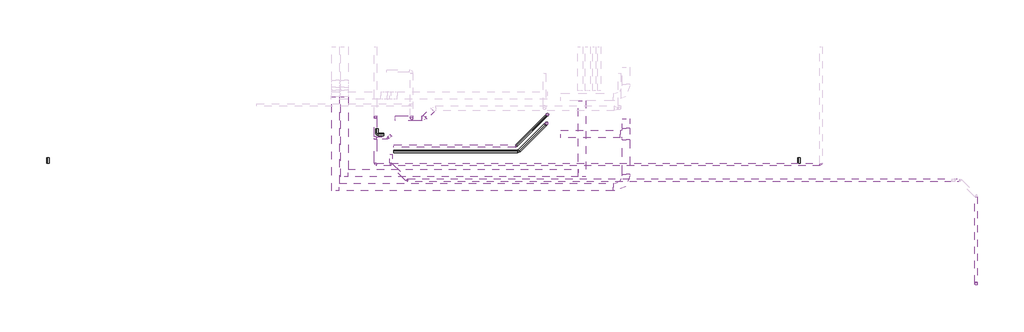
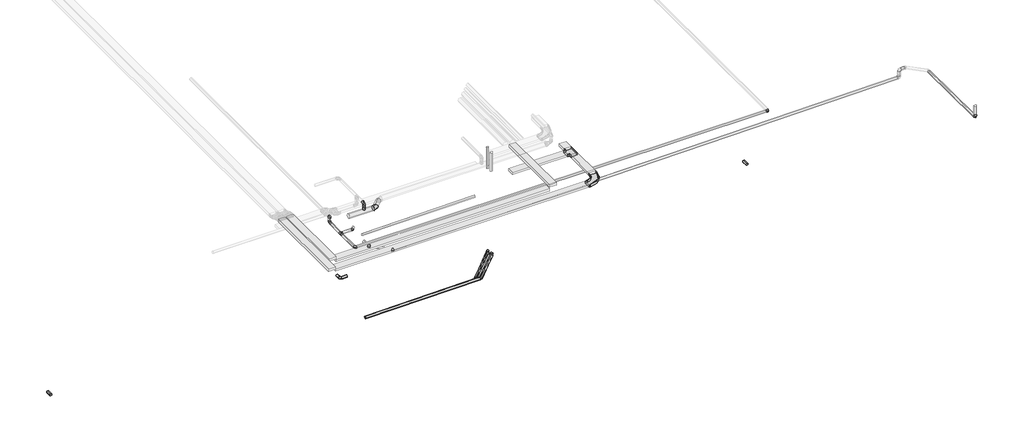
# One storey, part 1 of 5: 23 pipe segments, 14 pipe fittings, 8 cable carrier segments, 3 duct fittings, 3 duct segments, 2 cable carrier fittings.
"""IFC4 building model written with IfcOpenShell, lengths in millimetres."""

from ifc_helpers import new_model, si_unit, point, frame, frame_2d, origin, place, context, project, spatial, polyline, circle_curve, trimmed, segment, composite_curve, outline, extrude, transform, mapped, element, save
from components import el_radio_300_mm_312ed4b1, m_codo_horizontal_de_canal_el_5b0e7b07, ext_562ff85e, m_codo_redondo_ext_1_d_96ea52f9, m_codo_redondo_ext_1_d_19f6bd6d, pipe_fitting_0b7fd5a4, pipe_fitting_aab77541, pipe_fitting_688cd524, pipe_fitting_d4e63a53, pipe_fitting_87aeffad, pipe_fitting_4a6b8cfe, pipe_fitting_2d09eb79

model = new_model("IFC4")

# Units and contexts
model_context = context("Model", 3, world=origin())
ifc_project = project(units=[si_unit("LENGTHUNIT", "METRE", prefix="MILLI")], contexts=[model_context])

# Site, building, storey
site = spatial("IfcSite", under=ifc_project)
building = spatial("IfcBuilding", under=site)
storey = spatial("IfcBuildingStorey", under=building, Name="Nivell 02 P02_PP", Elevation=14910.0)

# Cable carrier fittings
placement = place(None, origin())
el_radio_300_mm_shape = el_radio_300_mm_312ed4b1(model_context)
element("IfcCableCarrierFitting", 1, ObjectType="M_Te horizontal de canal : EL_Radio 300 mm", at=placement, inside=storey, context=model_context, shape_type="MappedRepresentation", body=[
    mapped(el_radio_300_mm_shape, transform((16614.6624278, -16993.7433657, 18074.0212739), x_axis=(0.0, -1.0, 0.0), y_axis=(1.0, 0.0, 0.0), z_axis=(0.0, 0.0, 1.0))),
])
m_codo_horizontal_de_canal_el_shape = m_codo_horizontal_de_canal_el_5b0e7b07(model_context)
element("IfcCableCarrierFitting", 2, ObjectType="M_Codo horizontal de canal : EL", at=placement, inside=storey, context=model_context, shape_type="MappedRepresentation", body=[
    mapped(m_codo_horizontal_de_canal_el_shape, transform((16614.6624278, -19116.2171768, 18074.0212739), x_axis=(1.0, 0.0, 0.0), y_axis=(0.0, 1.0, 0.0), z_axis=(0.0, 0.0, 1.0))),
])

# Cable carrier segments
element("IfcCableCarrierSegment", 3, ObjectType="EL", at=placement, inside=storey, context=model_context, shape_type="SweptSolid", body=[
    extrude(outline(polyline([(16464.6624278, -17219.7433657), (16764.6624278, -17219.7433657), (16764.6624278, -18591.2171768), (16464.6624278, -18591.2171768), (16464.6624278, -17219.7433657)])), frame((0.0, 0.0, 18024.0212739), z_axis=(0.0, 0.0, 1.0), x_axis=(1.0, 0.0, 0.0)), (0.0, 0.0, 1.0), 100.0),
])
element("IfcCableCarrierSegment", 4, ObjectType="EL", at=placement, inside=storey, context=model_context, shape_type="SweptSolid", body=[
    extrude(outline(polyline([(16089.6624278, -18966.2171768), (16089.6624278, -19266.2171768), (5158.2381883, -19266.2171768), (5158.2381883, -18966.2171768), (16089.6624278, -18966.2171768)])), frame((0.0, 0.0, 18024.0212739), z_axis=(0.0, 0.0, 1.0), x_axis=(1.0, 0.0, 0.0)), (0.0, 0.0, 1.0), 100.0),
])
element("IfcCableCarrierSegment", 5, ObjectType="EL", at=placement, inside=storey, context=model_context, shape_type="SweptSolid", body=[
    extrude(outline(polyline([(16464.6624278, -16393.7433657), (16764.6624278, -16393.7433657), (16764.6624278, -16767.7433657), (16464.6624278, -16767.7433657), (16464.6624278, -16393.7433657)])), frame((0.0, 0.0, 18024.0212739), z_axis=(0.0, 0.0, 1.0), x_axis=(1.0, 0.0, 0.0)), (0.0, 0.0, 1.0), 100.0),
])
element("IfcCableCarrierSegment", 6, ObjectType="EL", at=placement, inside=storey, context=model_context, shape_type="SweptSolid", body=[
    extrude(outline(polyline([(16388.6624278, -16843.7433657), (16388.6624278, -17143.7433657), (14011.0671065, -17143.7433657), (14011.0671065, -16843.7433657), (16388.6624278, -16843.7433657)])), frame((0.0, 0.0, 18024.0212739), z_axis=(0.0, 0.0, 1.0), x_axis=(1.0, 0.0, 0.0)), (0.0, 0.0, 1.0), 100.0),
])
element("IfcCableCarrierSegment", 7, ObjectType="EL", at=placement, inside=storey, context=model_context, shape_type="SweptSolid", body=[
    extrude(outline(polyline([(14707.0671065, -15671.1304394), (15007.0671065, -15671.1304394), (15007.0671065, -18700.3999814), (14707.0671065, -18700.3999814), (14707.0671065, -15671.1304394)])), frame((0.0, 0.0, 18160.0), z_axis=(0.0, 0.0, 1.0), x_axis=(1.0, 0.0, 0.0)), (0.0, 0.0, 1.0), 100.0),
])
element("IfcCableCarrierSegment", 8, ObjectType="EL", at=placement, inside=storey, context=model_context, shape_type="SweptSolid", body=[
    extrude(outline(polyline([(14707.0671065, -18400.3999814), (14707.0671065, -18700.3999814), (5507.0671065, -18700.3999814), (5507.0671065, -18400.3999814), (14707.0671065, -18400.3999814)])), frame((0.0, 0.0, 17991.5185208), z_axis=(0.0, 0.0, 1.0), x_axis=(1.0, 0.0, 0.0)), (0.0, 0.0, 1.0), 100.0),
])
element("IfcCableCarrierSegment", 9, ObjectType="EL", at=placement, inside=storey, context=model_context, shape_type="SweptSolid", body=[
    extrude(outline(polyline([(4858.2381883, -15500.01931), (5158.2381883, -15500.01931), (5158.2381883, -19266.2171768), (4858.2381883, -19266.2171768), (4858.2381883, -15500.01931)])), frame((0.0, 0.0, 18110.0), z_axis=(0.0, 0.0, 1.0), x_axis=(1.0, 0.0, 0.0)), (0.0, 0.0, 1.0), 100.0),
])
element("IfcCableCarrierSegment", 10, ObjectType="EL", at=placement, inside=storey, context=model_context, shape_type="SweptSolid", body=[
    extrude(outline(polyline([(5207.0671065, -15500.01931), (5507.0671065, -15500.01931), (5507.0671065, -18700.3999814), (5207.0671065, -18700.3999814), (5207.0671065, -15500.01931)])), frame((0.0, 0.0, 18110.0), z_axis=(0.0, 0.0, 1.0), x_axis=(1.0, 0.0, 0.0)), (0.0, 0.0, 1.0), 100.0),
])

# Duct fittings
ext_shape = ext_562ff85e(model_context)
element("IfcDuctFitting", 11, ObjectType="M_Toma de derivación redonda : EXT", at=placement, inside=storey, context=model_context, shape_type="MappedRepresentation", body=[
    mapped(ext_shape, transform((8050.5896993, -16372.9719502, 18090.0), x_axis=(0.0, 0.0, 1.0), y_axis=(-1.0, 0.0, 0.0), z_axis=(0.0, -1.0, 0.0))),
])
m_codo_redondo_ext_1_d_shape = m_codo_redondo_ext_1_d_96ea52f9(model_context)
element("IfcDuctFitting", 12, ObjectType="M_Codo redondo : EXT_1 D", at=placement, inside=storey, context=model_context, shape_type="MappedRepresentation", body=[
    mapped(m_codo_redondo_ext_1_d_shape, transform((8050.5896993, -16372.9719502, 18360.0), x_axis=(0.0, -1.0, 0.0), y_axis=(0.0, 0.0, 1.0), z_axis=(-1.0, 0.0, 0.0))),
])
m_codo_redondo_ext_1_d_2_shape = m_codo_redondo_ext_1_d_19f6bd6d(model_context)
element("IfcDuctFitting", 13, ObjectType="M_Codo redondo : EXT_1 D", at=placement, inside=storey, context=model_context, shape_type="MappedRepresentation", body=[
    mapped(m_codo_redondo_ext_1_d_2_shape, transform((8530.5878282, -16372.9738213, 17990.0), x_axis=(-0.7071067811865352, -0.7071067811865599, 0.0), y_axis=(0.7071067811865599, -0.7071067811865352, 0.0), z_axis=(0.0, 0.0, 1.0))),
])

# Duct segments
element("IfcDuctSegment", 14, ObjectType="EXT_Acer Galvanitzat - Rígid", at=placement, inside=storey, context=model_context, shape_type="SweptSolid", body=[
    extrude(outline(composite_curve([segment(trimmed(circle_curve(frame_2d((8050.5896993, -16372.9719502)), 50.0), [point((8000.5896993, -16372.9719502))], [point((8050.5896993, -16322.9719502))], False, "CARTESIAN"), True, "CONTINUOUS"), segment(trimmed(circle_curve(frame_2d((8050.5896993, -16372.9719502)), 50.0), [point((8050.5896993, -16322.9719502))], [point((8100.5896993, -16372.9719502))], False, "CARTESIAN"), True, "CONTINUOUS"), segment(trimmed(circle_curve(frame_2d((8050.5896993, -16372.9719502)), 50.0), [point((8100.5896993, -16372.9719502))], [point((8050.5896993, -16422.9719502))], False, "CARTESIAN"), True, "CONTINUOUS"), segment(trimmed(circle_curve(frame_2d((8050.5896993, -16372.9719502)), 50.0), [point((8050.5896993, -16422.9719502))], [point((8000.5896993, -16372.9719502))], False, "CARTESIAN"), True, "CONTINUOUS")], self_intersect=False)), frame((0.0, 0.0, 18191.6), z_axis=(0.0, 0.0, 1.0), x_axis=(1.0, 0.0, 0.0)), (0.0, 0.0, 1.0), 68.4),
])
element("IfcDuctSegment", 15, ObjectType="EXT_Acer Galvanitzat - Rígid", at=placement, inside=storey, context=model_context, shape_type="SweptSolid", body=[
    extrude(outline(composite_curve([segment(trimmed(circle_curve(frame_2d((0.0, -100.0)), 100.0), [point((-100.0, -100.0))], [point((0.0, 0.0))], False, "CARTESIAN"), True, "CONTINUOUS"), segment(trimmed(circle_curve(frame_2d((0.0, -100.0)), 100.0), [point((0.0, 0.0))], [point((100.0, -100.0))], False, "CARTESIAN"), True, "CONTINUOUS"), segment(trimmed(circle_curve(frame_2d((0.0, -100.0)), 100.0), [point((100.0, -100.0))], [point((0.0, -200.0))], False, "CARTESIAN"), True, "CONTINUOUS"), segment(trimmed(circle_curve(frame_2d((0.0, -100.0)), 100.0), [point((0.0, -200.0))], [point((-100.0, -100.0))], False, "CARTESIAN"), True, "CONTINUOUS")], self_intersect=False)), frame((8589.166472, -16314.3951775, 17890.0), z_axis=(0.7071067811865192, 0.707106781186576, 0.0), x_axis=(0.707106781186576, -0.7071067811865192, 0.0)), (0.0, 0.0, 1.0), 400.0026461),
])
element("IfcDuctSegment", 16, ObjectType="EXT_Acer Galvanitzat - Rígid", at=placement, inside=storey, context=model_context, shape_type="SweptSolid", body=[
    extrude(outline(composite_curve([segment(trimmed(circle_curve(frame_2d((-16372.9738213, 17990.0)), 100.0), [point((-16272.9738213, 17990.0))], [point((-16372.9738213, 17890.0))], False, "CARTESIAN"), True, "CONTINUOUS"), segment(trimmed(circle_curve(frame_2d((-16372.9738213, 17990.0)), 100.0), [point((-16372.9738213, 17890.0))], [point((-16472.9738213, 17990.0))], False, "CARTESIAN"), True, "CONTINUOUS"), segment(trimmed(circle_curve(frame_2d((-16372.9738213, 17990.0)), 100.0), [point((-16472.9738213, 17990.0))], [point((-16372.9738213, 18090.0))], False, "CARTESIAN"), True, "CONTINUOUS"), segment(trimmed(circle_curve(frame_2d((-16372.9738213, 17990.0)), 100.0), [point((-16372.9738213, 18090.0))], [point((-16272.9738213, 17990.0))], False, "CARTESIAN"), True, "CONTINUOUS")], self_intersect=False)), frame((7390.5878282, 0.0, 0.0), z_axis=(1.0, 0.0, 0.0), x_axis=(0.0, 1.0, 0.0)), (0.0, 0.0, 1.0), 1057.1572875),
])

# Pipe fittings
pipe_fitting_shape = pipe_fitting_0b7fd5a4(model_context)
element("IfcPipeFitting", 17, ObjectType="M_Codo - Genérico : Estándar", at=placement, inside=storey, context=model_context, shape_type="MappedRepresentation", body=[
    mapped(pipe_fitting_shape, transform((12318.5757792, -17686.9795368, 14244.2175715), x_axis=(0.9999500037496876, 0.0, 0.009999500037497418), y_axis=(-4.141685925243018e-05, 0.9999914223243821, 0.004141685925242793), z_axis=(-0.009999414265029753, -0.004141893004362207, 0.9999414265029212))),
])
element("IfcPipeFitting", 18, ObjectType="M_Codo - Genérico : Estándar", at=placement, inside=storey, context=model_context, shape_type="MappedRepresentation", body=[
    mapped(pipe_fitting_shape, transform((7870.1942893, -18840.3956727, 17794.0689991), x_axis=(0.7070714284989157, -0.7070714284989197, 0.009999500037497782), y_axis=(0.7070714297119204, 0.7071300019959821, 0.004141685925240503), z_axis=(-0.009999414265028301, 0.004141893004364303, 0.9999414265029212))),
])
element("IfcPipeFitting", 19, ObjectType="M_Codo - Genérico : Estándar", at=placement, inside=storey, context=model_context, shape_type="MappedRepresentation", body=[
    mapped(pipe_fitting_shape, transform((7222.9422017, -18193.1435851, 17784.9154723), x_axis=(0.0, -0.9999500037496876, 0.009999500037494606), y_axis=(0.9999914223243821, 4.141685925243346e-05, 0.004141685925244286), z_axis=(-0.004141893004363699, 0.009999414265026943, 0.9999414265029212))),
])
pipe_fitting_2_shape = pipe_fitting_aab77541(model_context)
element("IfcPipeFitting", 20, ObjectType="M_Codo - Genérico : Estándar", at=placement, inside=storey, context=model_context, shape_type="MappedRepresentation", body=[
    mapped(pipe_fitting_2_shape, transform((13434.5619983, -16570.9933177, 14260.0), x_axis=(0.7070714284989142, 0.7070714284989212, 0.00999950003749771), y_axis=(-0.007070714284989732, -0.007070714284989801, 0.9999500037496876), z_axis=(0.707106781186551, -0.707106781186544, 0.0))),
])
element("IfcPipeFitting", 21, ObjectType="M_Codo - Genérico : Estándar", at=placement, inside=storey, context=model_context, shape_type="MappedRepresentation", body=[
    mapped(pipe_fitting_2_shape, transform((30589.4059114, -22976.7660651, 18410.0), x_axis=(0.0, 0.0, -1.0), y_axis=(0.0, 1.0, 0.0), z_axis=(1.0, 0.0, 0.0))),
])
pipe_fitting_3_shape = pipe_fitting_688cd524(model_context)
element("IfcPipeFitting", 22, ObjectType="M_Codo - Genérico : Estándar", at=placement, inside=storey, context=model_context, shape_type="MappedRepresentation", body=[
    mapped(pipe_fitting_3_shape, transform((13475.0176167, -16214.1987939, 14151.1228556), x_axis=(0.7070714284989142, 0.7070714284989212, 0.00999950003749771), y_axis=(-0.007070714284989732, -0.007070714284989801, 0.9999500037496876), z_axis=(0.707106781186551, -0.707106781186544, 0.0))),
])
pipe_fitting_4_shape = pipe_fitting_d4e63a53(model_context)
element("IfcPipeFitting", 23, ObjectType="M_Codo - Genérico : Estándar", at=placement, inside=storey, context=model_context, shape_type="MappedRepresentation", body=[
    mapped(pipe_fitting_4_shape, transform((12218.1428427, -17471.0727446, 14133.3479679), x_axis=(0.9999500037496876, 0.0, 0.009999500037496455), y_axis=(-4.141528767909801e-05, 0.9999914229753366, 0.0041415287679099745), z_axis=(-0.00999941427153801, -0.004141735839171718, 0.9999414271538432))),
])
pipe_fitting_5_shape = pipe_fitting_87aeffad(model_context)
element("IfcPipeFitting", 24, ObjectType="M_Codo - Genérico : Estándar", at=placement, inside=storey, context=model_context, shape_type="MappedRepresentation", body=[
    mapped(pipe_fitting_5_shape, transform((6656.4795907, -17006.4845942, 15810.0), x_axis=(0.0, -1.0, 0.0), y_axis=(1.0, 0.0, 0.0), z_axis=(0.0, 0.0, 1.0))),
])
element("IfcPipeFitting", 25, ObjectType="M_Codo - Genérico : Estándar", at=placement, inside=storey, context=model_context, shape_type="MappedRepresentation", body=[
    mapped(pipe_fitting_5_shape, transform((6603.8941113, -18211.6106458, 17959.2), x_axis=(0.0, -1.0, 0.0), y_axis=(1.0, 0.0, 0.0), z_axis=(0.0, 0.0, 1.0))),
])
element("IfcPipeFitting", 26, ObjectType="M_Codo - Genérico : Estándar", at=placement, inside=storey, context=model_context, shape_type="MappedRepresentation", body=[
    mapped(pipe_fitting_5_shape, transform((24403.8941113, -18211.6106458, 17959.2), x_axis=(1.0, 0.0, 0.0), y_axis=(0.0, 1.0, 0.0), z_axis=(0.0, 0.0, 1.0))),
])
element("IfcPipeFitting", 27, ObjectType="M_Codo - Genérico : Estándar", at=placement, inside=storey, context=model_context, shape_type="MappedRepresentation", body=[
    mapped(pipe_fitting_5_shape, transform((6603.8941113, -16317.1543958, 17959.2), x_axis=(0.0, 1.0, 0.0), y_axis=(0.0, 0.0, 1.0), z_axis=(1.0, 0.0, 0.0))),
])
element("IfcPipeFitting", 28, ObjectType="M_Codo - Genérico : Estándar", at=placement, inside=storey, context=model_context, shape_type="MappedRepresentation", body=[
    mapped(pipe_fitting_5_shape, transform((6603.8941113, -16317.1543958, 18210.8), x_axis=(0.0, -1.0, 0.0), y_axis=(0.0, 0.0, -1.0), z_axis=(1.0, 0.0, 0.0))),
])
pipe_fitting_6_shape = pipe_fitting_4a6b8cfe(model_context)
element("IfcPipeFitting", 29, ObjectType="M_Codo - Genérico : Estándar", at=placement, inside=storey, context=model_context, shape_type="MappedRepresentation", body=[
    mapped(pipe_fitting_6_shape, transform((7103.8941113, -17152.8731458, 17959.2), x_axis=(1.0, 0.0, 0.0), y_axis=(0.0, 1.0, 0.0), z_axis=(0.0, 0.0, 1.0))),
])
pipe_fitting_7_shape = pipe_fitting_2d09eb79(model_context)
element("IfcPipeFitting", 30, ObjectType="M_Te - Genérica : Estándar", at=placement, inside=storey, context=model_context, shape_type="MappedRepresentation", body=[
    mapped(pipe_fitting_7_shape, transform((6603.8941113, -17152.8731458, 17959.2), x_axis=(0.0, -1.0, 0.0), y_axis=(-1.0, 0.0, 0.0), z_axis=(0.0, 0.0, -1.0))),
])

# Pipe segments
element("IfcPipeSegment", 31, ObjectType="PVC_Baixant", at=placement, inside=storey, context=model_context, shape_type="SweptSolid", body=[
    extrude(outline(composite_curve([segment(trimmed(circle_curve(frame_2d((0.0, -55.0)), 55.0), [point((-54.9972505, -54.450055))], [point((0.549945, -0.0027495))], False, "CARTESIAN"), True, "CONTINUOUS"), segment(trimmed(circle_curve(frame_2d((0.0, -55.0)), 55.0), [point((0.549945, -0.0027495))], [point((54.9972505, -55.549945))], False, "CARTESIAN"), True, "CONTINUOUS"), segment(trimmed(circle_curve(frame_2d((0.0, -55.0)), 55.0), [point((54.9972505, -55.549945))], [point((-0.549945, -109.9972505))], False, "CARTESIAN"), True, "CONTINUOUS"), segment(trimmed(circle_curve(frame_2d((0.0, -55.0)), 55.0), [point((-0.549945, -109.9972505))], [point((-54.9972505, -54.450055))], False, "CARTESIAN"), True, "CONTINUOUS")], self_intersect=False)), frame((12337.0077448, -17667.7698315, 14189.4837381), z_axis=(0.7070714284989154, 0.7070714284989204, 0.009999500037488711), x_axis=(0.7071421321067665, -0.7070007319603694, -0.009998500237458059)), (0.0, 0.0, 1.0), 1489.9424458),
])
element("IfcPipeSegment", 32, ObjectType="PVC_Baixant", at=placement, inside=storey, context=model_context, shape_type="SweptSolid", body=[
    extrude(outline(composite_curve([segment(trimmed(circle_curve(frame_2d((0.0, -55.0)), 55.0), [point((0.0, 0.0))], [point((55.0, -55.0))], False, "CARTESIAN"), True, "CONTINUOUS"), segment(trimmed(circle_curve(frame_2d((0.0, -55.0)), 55.0), [point((55.0, -55.0))], [point((0.0, -110.0))], False, "CARTESIAN"), True, "CONTINUOUS"), segment(trimmed(circle_curve(frame_2d((0.0, -55.0)), 55.0), [point((0.0, -110.0))], [point((-55.0, -55.0))], False, "CARTESIAN"), True, "CONTINUOUS"), segment(trimmed(circle_curve(frame_2d((0.0, -55.0)), 55.0), [point((-55.0, -55.0))], [point((0.0, 0.0))], False, "CARTESIAN"), True, "CONTINUOUS")], self_intersect=False)), frame((7340.5229136, -17631.9795368, 14194.4370429), z_axis=(0.9999500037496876, 0.0, 0.009999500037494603), x_axis=(0.009999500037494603, 0.0, -0.9999500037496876)), (0.0, 0.0, 1.0), 4952.2337229),
])
element("IfcPipeSegment", 33, ObjectType="PVC_Baixant", at=placement, inside=storey, context=model_context, shape_type="SweptSolid", body=[
    extrude(outline(composite_curve([segment(trimmed(circle_curve(frame_2d((0.0, -45.0)), 45.0), [point((-44.9977503, -44.550045))], [point((0.4499551, -0.0022497))], False, "CARTESIAN"), True, "CONTINUOUS"), segment(trimmed(circle_curve(frame_2d((0.0, -45.0)), 45.0), [point((0.4499551, -0.0022497))], [point((44.9977505, -45.449955))], False, "CARTESIAN"), True, "CONTINUOUS"), segment(trimmed(circle_curve(frame_2d((0.0, -45.0)), 45.0), [point((44.9977505, -45.449955))], [point((-0.4499549, -89.9977505))], False, "CARTESIAN"), True, "CONTINUOUS"), segment(trimmed(circle_curve(frame_2d((0.0, -45.0)), 45.0), [point((-0.4499549, -89.9977505))], [point((-44.9977503, -44.550045))], False, "CARTESIAN"), True, "CONTINUOUS")], self_intersect=False)), frame((12233.4849498, -17455.0951282, 14088.5694315), z_axis=(0.7070714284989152, 0.7070714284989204, 0.009999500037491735), x_axis=(0.7071421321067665, -0.7070007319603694, -0.009998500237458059)), (0.0, 0.0, 1.0), 1704.0138787),
])
element("IfcPipeSegment", 34, ObjectType="PVC_Baixant", at=placement, inside=storey, context=model_context, shape_type="SweptSolid", body=[
    extrude(outline(composite_curve([segment(trimmed(circle_curve(frame_2d((13434.5619983, -16570.9933177)), 55.0), [point((13379.5619983, -16570.9933177))], [point((13434.5619983, -16515.9933177))], False, "CARTESIAN"), True, "CONTINUOUS"), segment(trimmed(circle_curve(frame_2d((13434.5619983, -16570.9933177)), 55.0), [point((13434.5619983, -16515.9933177))], [point((13489.5619983, -16570.9933177))], False, "CARTESIAN"), True, "CONTINUOUS"), segment(trimmed(circle_curve(frame_2d((13434.5619983, -16570.9933177)), 55.0), [point((13489.5619983, -16570.9933177))], [point((13434.5619983, -16625.9933177))], False, "CARTESIAN"), True, "CONTINUOUS"), segment(trimmed(circle_curve(frame_2d((13434.5619983, -16570.9933177)), 55.0), [point((13434.5619983, -16625.9933177))], [point((13379.5619983, -16570.9933177))], False, "CARTESIAN"), True, "CONTINUOUS")], self_intersect=False)), frame((0.0, 0.0, 18072.3112718), z_axis=(0.0, 0.0, 1.0), x_axis=(1.0, 0.0, 0.0)), (0.0, 0.0, 1.0), 837.6887282),
])
element("IfcPipeSegment", 35, ObjectType="PVC_Baixant", at=placement, inside=storey, context=model_context, shape_type="SweptSolid", body=[
    extrude(outline(composite_curve([segment(trimmed(circle_curve(frame_2d((0.0, 45.0)), 45.0), [point((-45.0, 45.0))], [point((-1e-07, 90.0))], False, "CARTESIAN"), True, "CONTINUOUS"), segment(trimmed(circle_curve(frame_2d((0.0, 45.0)), 45.0), [point((-1e-07, 90.0))], [point((44.9999999, 45.0))], False, "CARTESIAN"), True, "CONTINUOUS"), segment(trimmed(circle_curve(frame_2d((0.0, 45.0)), 45.0), [point((44.9999999, 45.0))], [point((0.0, 0.0))], False, "CARTESIAN"), True, "CONTINUOUS"), segment(trimmed(circle_curve(frame_2d((0.0, 45.0)), 45.0), [point((0.0, 0.0))], [point((-45.0, 45.0))], False, "CARTESIAN"), True, "CONTINUOUS")], self_intersect=False)), frame((13475.0176167, -16259.1987939, 17952.9893661), z_axis=(2.1629648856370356e-05, 5.915680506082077e-06, 0.9999999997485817), x_axis=(0.9999999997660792, -1.2795453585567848e-10, -2.162964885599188e-05)), (0.0, 0.0, 1.0), 957.0108981),
])
element("IfcPipeSegment", 36, ObjectType="PVC_Baixant", at=placement, inside=storey, context=model_context, shape_type="SweptSolid", body=[
    extrude(outline(composite_curve([segment(trimmed(circle_curve(frame_2d((0.0, -45.0)), 45.0), [point((0.0, 0.0))], [point((44.9999999, -45.0))], False, "CARTESIAN"), True, "CONTINUOUS"), segment(trimmed(circle_curve(frame_2d((0.0, -45.0)), 45.0), [point((44.9999999, -45.0))], [point((0.0, -90.0))], False, "CARTESIAN"), True, "CONTINUOUS"), segment(trimmed(circle_curve(frame_2d((0.0, -45.0)), 45.0), [point((0.0, -90.0))], [point((-45.0, -45.0))], False, "CARTESIAN"), True, "CONTINUOUS"), segment(trimmed(circle_curve(frame_2d((0.0, -45.0)), 45.0), [point((-45.0, -45.0))], [point((0.0, 0.0))], False, "CARTESIAN"), True, "CONTINUOUS")], self_intersect=False)), frame((7341.6214565, -17426.0727446, 17834.582754), z_axis=(0.9999500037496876, 0.0, 0.009999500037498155), x_axis=(0.009999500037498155, 0.0, -0.9999500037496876)), (0.0, 0.0, 1.0), 4855.0676875),
])
element("IfcPipeSegment", 37, ObjectType="PVC_Baixant", at=placement, inside=storey, context=model_context, shape_type="SweptSolid", body=[
    extrude(outline(composite_curve([segment(trimmed(circle_curve(frame_2d((30589.4059114, -22976.7660651)), 55.0), [point((30534.4059114, -22976.7660651))], [point((30589.4059114, -22921.7660651))], False, "CARTESIAN"), True, "CONTINUOUS"), segment(trimmed(circle_curve(frame_2d((30589.4059114, -22976.7660651)), 55.0), [point((30589.4059114, -22921.7660651))], [point((30644.4059114, -22976.7660651))], False, "CARTESIAN"), True, "CONTINUOUS"), segment(trimmed(circle_curve(frame_2d((30589.4059114, -22976.7660651)), 55.0), [point((30644.4059114, -22976.7660651))], [point((30589.4059114, -23031.7660651))], False, "CARTESIAN"), True, "CONTINUOUS"), segment(trimmed(circle_curve(frame_2d((30589.4059114, -22976.7660651)), 55.0), [point((30589.4059114, -23031.7660651))], [point((30534.4059114, -22976.7660651))], False, "CARTESIAN"), True, "CONTINUOUS")], self_intersect=False)), frame((0.0, 0.0, 18472.3112718), z_axis=(0.0, 0.0, 1.0), x_axis=(1.0, 0.0, 0.0)), (0.0, 0.0, 1.0), 437.6887282),
])
element("IfcPipeSegment", 38, ObjectType="PVC_Baixant", at=placement, inside=storey, context=model_context, shape_type="SweptSolid", body=[
    extrude(outline(composite_curve([segment(trimmed(circle_curve(frame_2d((0.0, -55.0)), 55.0), [point((55.0, -55.0))], [point((0.0, -110.0))], False, "CARTESIAN"), True, "CONTINUOUS"), segment(trimmed(circle_curve(frame_2d((0.0, -55.0)), 55.0), [point((0.0, -110.0))], [point((-55.0, -55.0))], False, "CARTESIAN"), True, "CONTINUOUS"), segment(trimmed(circle_curve(frame_2d((0.0, -55.0)), 55.0), [point((-55.0, -55.0))], [point((0.0, 0.0))], False, "CARTESIAN"), True, "CONTINUOUS"), segment(trimmed(circle_curve(frame_2d((0.0, -55.0)), 55.0), [point((0.0, 0.0))], [point((55.0, -55.0))], False, "CARTESIAN"), True, "CONTINUOUS")], self_intersect=False)), frame((30589.4059114, -19499.9749558, 18430.2348388), z_axis=(0.0, -0.9999500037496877, 0.009999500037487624), x_axis=(1.0, 0.0, 0.0)), (0.0, 0.0, 1.0), 3414.1036727),
])
element("IfcPipeSegment", 39, ObjectType="PVC_Baixant", at=placement, inside=storey, context=model_context, shape_type="SweptSolid", body=[
    extrude(outline(composite_curve([segment(trimmed(circle_curve(frame_2d((0.0, -55.0)), 55.0), [point((0.0, 0.0))], [point((55.0, -55.0))], False, "CARTESIAN"), True, "CONTINUOUS"), segment(trimmed(circle_curve(frame_2d((0.0, -55.0)), 55.0), [point((55.0, -55.0))], [point((0.0, -110.0))], False, "CARTESIAN"), True, "CONTINUOUS"), segment(trimmed(circle_curve(frame_2d((0.0, -55.0)), 55.0), [point((0.0, -110.0))], [point((-55.0, -55.0))], False, "CARTESIAN"), True, "CONTINUOUS"), segment(trimmed(circle_curve(frame_2d((0.0, -55.0)), 55.0), [point((-55.0, -55.0))], [point((0.0, 0.0))], False, "CARTESIAN"), True, "CONTINUOUS")], self_intersect=False)), frame((7896.2610251, -18785.3956727, 17794.3296664), z_axis=(0.9999500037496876, 0.0, 0.009999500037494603), x_axis=(0.009999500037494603, 0.0, -0.9999500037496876)), (0.0, 0.0, 1.0), 21730.0676293),
])
element("IfcPipeSegment", 40, ObjectType="PVC_Baixant", at=placement, inside=storey, context=model_context, shape_type="SweptSolid", body=[
    extrude(outline(composite_curve([segment(trimmed(circle_curve(frame_2d((0.0, -55.0)), 55.0), [point((54.9972505, -54.450055))], [point((0.549945, -109.9972505))], False, "CARTESIAN"), True, "CONTINUOUS"), segment(trimmed(circle_curve(frame_2d((0.0, -55.0)), 55.0), [point((0.549945, -109.9972505))], [point((-54.9972505, -55.549945))], False, "CARTESIAN"), True, "CONTINUOUS"), segment(trimmed(circle_curve(frame_2d((0.0, -55.0)), 55.0), [point((-54.9972505, -55.549945))], [point((-0.5499449, -0.0027495))], False, "CARTESIAN"), True, "CONTINUOUS"), segment(trimmed(circle_curve(frame_2d((0.0, -55.0)), 55.0), [point((-0.5499449, -0.0027495))], [point((54.9972505, -54.450055))], False, "CARTESIAN"), True, "CONTINUOUS")], self_intersect=False)), frame((7241.3741673, -18210.797811, 17840.1706404), z_axis=(0.707071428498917, -0.7070714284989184, 0.009999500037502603), x_axis=(0.7071421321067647, 0.7070007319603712, -0.009998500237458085)), (0.0, 0.0, 1.0), 863.2623688),
])
element("IfcPipeSegment", 41, ObjectType="PVC_Baixant", at=placement, inside=storey, context=model_context, shape_type="SweptSolid", body=[
    extrude(outline(composite_curve([segment(trimmed(circle_curve(frame_2d((0.0, -55.0)), 55.0), [point((0.0, 0.0))], [point((55.0, -55.0))], False, "CARTESIAN"), True, "CONTINUOUS"), segment(trimmed(circle_curve(frame_2d((0.0, -55.0)), 55.0), [point((55.0, -55.0))], [point((0.0, -110.0))], False, "CARTESIAN"), True, "CONTINUOUS"), segment(trimmed(circle_curve(frame_2d((0.0, -55.0)), 55.0), [point((0.0, -110.0))], [point((-55.0, -55.0))], False, "CARTESIAN"), True, "CONTINUOUS"), segment(trimmed(circle_curve(frame_2d((0.0, -55.0)), 55.0), [point((-55.0, -55.0))], [point((0.0, 0.0))], False, "CARTESIAN"), True, "CONTINUOUS")], self_intersect=False)), frame((29749.8586125, -18785.4049607, 18363.9482891), z_axis=(0.9999500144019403, 0.0, 0.009998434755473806), x_axis=(0.009998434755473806, 0.0, -0.9999500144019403)), (0.0, 0.0, 1.0), 179.4363416),
])
element("IfcPipeSegment", 42, ObjectType="PVC_Baixant", at=placement, inside=storey, context=model_context, shape_type="SweptSolid", body=[
    extrude(outline(composite_curve([segment(trimmed(circle_curve(frame_2d((0.0, 54.9999999)), 55.0), [point((-55.0, 54.9999999))], [point((0.0, 110.0))], False, "CARTESIAN"), True, "CONTINUOUS"), segment(trimmed(circle_curve(frame_2d((0.0, 54.9999999)), 55.0), [point((0.0, 110.0))], [point((55.0, 54.9999999))], False, "CARTESIAN"), True, "CONTINUOUS"), segment(trimmed(circle_curve(frame_2d((0.0, 54.9999999)), 55.0), [point((55.0, 54.9999999))], [point((0.0, 0.0))], False, "CARTESIAN"), True, "CONTINUOUS"), segment(trimmed(circle_curve(frame_2d((0.0, 54.9999999)), 55.0), [point((0.0, 0.0))], [point((-55.0, 54.9999999))], False, "CARTESIAN"), True, "CONTINUOUS")], self_intersect=False)), frame((29687.5503889, -18895.3956726, 18074.5515761), z_axis=(0.0, -4.1014092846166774e-05, 0.9999999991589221), x_axis=(1.0, 0.0, 0.0)), (0.0, 0.0, 1.0), 226.4600963),
])
element("IfcPipeSegment", 43, ObjectType="PVC_Baixant", at=placement, inside=storey, context=model_context, shape_type="SweptSolid", body=[
    extrude(outline(composite_curve([segment(trimmed(circle_curve(frame_2d((0.0, -55.0)), 55.0), [point((55.0, -55.0))], [point((0.0, -110.0))], False, "CARTESIAN"), True, "CONTINUOUS"), segment(trimmed(circle_curve(frame_2d((0.0, -55.0)), 55.0), [point((0.0, -110.0))], [point((-55.0, -55.0))], False, "CARTESIAN"), True, "CONTINUOUS"), segment(trimmed(circle_curve(frame_2d((0.0, -55.0)), 55.0), [point((-55.0, -55.0))], [point((0.0, 0.0))], False, "CARTESIAN"), True, "CONTINUOUS"), segment(trimmed(circle_curve(frame_2d((0.0, -55.0)), 55.0), [point((0.0, 0.0))], [point((55.0, -55.0))], False, "CARTESIAN"), True, "CONTINUOUS")], self_intersect=False)), frame((7222.9422017, -17805.1280536, 17836.0380669), z_axis=(0.0, -0.999950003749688, 0.009999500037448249), x_axis=(1.0, 0.0, 0.0)), (0.0, 0.0, 1.0), 361.4168927),
])
element("IfcPipeSegment", 44, ObjectType="AN_CI", at=placement, inside=storey, context=model_context, shape_type="SweptSolid", body=[
    extrude(outline(composite_curve([segment(trimmed(circle_curve(frame_2d((-17006.4845942, 15810.0)), 50.8), [point((-16955.6845942, 15810.0))], [point((-17006.4845942, 15759.2))], False, "CARTESIAN"), True, "CONTINUOUS"), segment(trimmed(circle_curve(frame_2d((-17006.4845942, 15810.0)), 50.8), [point((-17006.4845942, 15759.2))], [point((-17057.2845942, 15810.0))], False, "CARTESIAN"), True, "CONTINUOUS"), segment(trimmed(circle_curve(frame_2d((-17006.4845942, 15810.0)), 50.8), [point((-17057.2845942, 15810.0))], [point((-17006.4845942, 15860.8))], False, "CARTESIAN"), True, "CONTINUOUS"), segment(trimmed(circle_curve(frame_2d((-17006.4845942, 15810.0)), 50.8), [point((-17006.4845942, 15860.8))], [point((-16955.6845942, 15810.0))], False, "CARTESIAN"), True, "CONTINUOUS")], self_intersect=False)), frame((6708.8670907, 0.0, 0.0), z_axis=(1.0, 0.0, 0.0), x_axis=(0.0, 1.0, 0.0)), (0.0, 0.0, 1.0), 227.6125),
])
element("IfcPipeSegment", 45, ObjectType="AN_CI", at=placement, inside=storey, context=model_context, shape_type="SweptSolid", body=[
    extrude(outline(composite_curve([segment(trimmed(circle_curve(frame_2d((15810.0, 6656.4795907)), 50.8), [point((15810.0, 6707.2795907))], [point((15860.8, 6656.4795907))], False, "CARTESIAN"), True, "CONTINUOUS"), segment(trimmed(circle_curve(frame_2d((15810.0, 6656.4795907)), 50.8), [point((15860.8, 6656.4795907))], [point((15810.0, 6605.6795907))], False, "CARTESIAN"), True, "CONTINUOUS"), segment(trimmed(circle_curve(frame_2d((15810.0, 6656.4795907)), 50.8), [point((15810.0, 6605.6795907))], [point((15759.2, 6656.4795907))], False, "CARTESIAN"), True, "CONTINUOUS"), segment(trimmed(circle_curve(frame_2d((15810.0, 6656.4795907)), 50.8), [point((15759.2, 6656.4795907))], [point((15810.0, 6707.2795907))], False, "CARTESIAN"), True, "CONTINUOUS")], self_intersect=False)), frame((0.0, -16954.0970942, 0.0), z_axis=(0.0, 1.0, 0.0), x_axis=(0.0, 0.0, 1.0)), (0.0, 0.0, 1.0), 167.6125),
])
element("IfcPipeSegment", 46, ObjectType="AN_CI", at=placement, inside=storey, context=model_context, shape_type="SweptSolid", body=[
    extrude(outline(composite_curve([segment(trimmed(circle_curve(frame_2d((0.0, -50.8)), 50.8), [point((-50.8, -50.8))], [point((0.0, 0.0))], False, "CARTESIAN"), True, "CONTINUOUS"), segment(trimmed(circle_curve(frame_2d((0.0, -50.8)), 50.8), [point((0.0, 0.0))], [point((50.8, -50.8))], False, "CARTESIAN"), True, "CONTINUOUS"), segment(trimmed(circle_curve(frame_2d((0.0, -50.8)), 50.8), [point((50.8, -50.8))], [point((0.0, -101.6))], False, "CARTESIAN"), True, "CONTINUOUS"), segment(trimmed(circle_curve(frame_2d((0.0, -50.8)), 50.8), [point((0.0, -101.6))], [point((-50.8, -50.8))], False, "CARTESIAN"), True, "CONTINUOUS")], self_intersect=False)), frame((7119.2380548, -17137.5292023, 17908.4), z_axis=(0.7071067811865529, 0.7071067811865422, 0.0), x_axis=(0.7071067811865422, -0.7071067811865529, 0.0)), (0.0, 0.0, 1.0), 125.912887),
])
element("IfcPipeSegment", 47, ObjectType="AN_CI", at=placement, inside=storey, context=model_context, shape_type="SweptSolid", body=[
    extrude(outline(composite_curve([segment(trimmed(circle_curve(frame_2d((-17152.8731458, 17959.2)), 50.8), [point((-17102.0731458, 17959.2))], [point((-17152.8731458, 17908.4))], False, "CARTESIAN"), True, "CONTINUOUS"), segment(trimmed(circle_curve(frame_2d((-17152.8731458, 17959.2)), 50.8), [point((-17152.8731458, 17908.4))], [point((-17203.6731458, 17959.2))], False, "CARTESIAN"), True, "CONTINUOUS"), segment(trimmed(circle_curve(frame_2d((-17152.8731458, 17959.2)), 50.8), [point((-17203.6731458, 17959.2))], [point((-17152.8731458, 18010.0))], False, "CARTESIAN"), True, "CONTINUOUS"), segment(trimmed(circle_curve(frame_2d((-17152.8731458, 17959.2)), 50.8), [point((-17152.8731458, 18010.0))], [point((-17102.0731458, 17959.2))], False, "CARTESIAN"), True, "CONTINUOUS")], self_intersect=False)), frame((6662.6316113, 0.0, 0.0), z_axis=(1.0, 0.0, 0.0), x_axis=(0.0, 1.0, 0.0)), (0.0, 0.0, 1.0), 419.562887),
])
element("IfcPipeSegment", 48, ObjectType="AN_CI", at=placement, inside=storey, context=model_context, shape_type="SweptSolid", body=[
    extrude(outline(composite_curve([segment(trimmed(circle_curve(frame_2d((0.0, -50.8)), 50.8), [point((0.0, 0.0))], [point((50.8, -50.8))], False, "CARTESIAN"), True, "CONTINUOUS"), segment(trimmed(circle_curve(frame_2d((0.0, -50.8)), 50.8), [point((50.8, -50.8))], [point((0.0, -101.5999999))], False, "CARTESIAN"), True, "CONTINUOUS"), segment(trimmed(circle_curve(frame_2d((0.0, -50.8)), 50.8), [point((0.0, -101.5999999))], [point((-50.8, -50.8))], False, "CARTESIAN"), True, "CONTINUOUS"), segment(trimmed(circle_curve(frame_2d((0.0, -50.8)), 50.8), [point((-50.8, -50.8))], [point((0.0, 0.0))], False, "CARTESIAN"), True, "CONTINUOUS")], self_intersect=False)), frame((23464.1145716, -18170.3435948, 15810.0), z_axis=(2.0856058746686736e-05, 0.9999999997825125, 0.0), x_axis=(0.0, 0.0, -1.0)), (0.0, 0.0, 1.0), 227.6125),
])
element("IfcPipeSegment", 49, ObjectType="AN_CI", at=placement, inside=storey, context=model_context, shape_type="SweptSolid", body=[
    extrude(outline(composite_curve([segment(trimmed(circle_curve(frame_2d((0.0, -50.8)), 50.8), [point((0.0, 0.0))], [point((50.8, -50.8))], False, "CARTESIAN"), True, "CONTINUOUS"), segment(trimmed(circle_curve(frame_2d((0.0, -50.8)), 50.8), [point((50.8, -50.8))], [point((0.0, -101.6))], False, "CARTESIAN"), True, "CONTINUOUS"), segment(trimmed(circle_curve(frame_2d((0.0, -50.8)), 50.8), [point((0.0, -101.6))], [point((-50.8, -50.8))], False, "CARTESIAN"), True, "CONTINUOUS"), segment(trimmed(circle_curve(frame_2d((0.0, -50.8)), 50.8), [point((-50.8, -50.8))], [point((0.0, 0.0))], False, "CARTESIAN"), True, "CONTINUOUS")], self_intersect=False)), frame((-6535.8422555, -18169.7179139, 15810.0), z_axis=(2.085605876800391e-05, 0.9999999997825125, 0.0), x_axis=(0.0, 0.0, -1.0)), (0.0, 0.0, 1.0), 227.6125),
])
element("IfcPipeSegment", 50, ObjectType="AN_CI", at=placement, inside=storey, context=model_context, shape_type="SweptSolid", body=[
    extrude(outline(composite_curve([segment(trimmed(circle_curve(frame_2d((17959.2, 6603.8941113)), 50.8), [point((17959.2, 6553.0941113))], [point((17908.4, 6603.8941113))], False, "CARTESIAN"), True, "CONTINUOUS"), segment(trimmed(circle_curve(frame_2d((17959.2, 6603.8941113)), 50.8), [point((17908.4, 6603.8941113))], [point((17959.2, 6654.6941113))], False, "CARTESIAN"), True, "CONTINUOUS"), segment(trimmed(circle_curve(frame_2d((17959.2, 6603.8941113)), 50.8), [point((17959.2, 6654.6941113))], [point((18010.0, 6603.8941113))], False, "CARTESIAN"), True, "CONTINUOUS"), segment(trimmed(circle_curve(frame_2d((17959.2, 6603.8941113)), 50.8), [point((18010.0, 6603.8941113))], [point((17959.2, 6553.0941113))], False, "CARTESIAN"), True, "CONTINUOUS")], self_intersect=False)), frame((0.0, -18159.2231458, 0.0), z_axis=(0.0, 1.0, 0.0), x_axis=(0.0, 0.0, 1.0)), (0.0, 0.0, 1.0), 947.6125),
])
element("IfcPipeSegment", 51, ObjectType="AN_CI", at=placement, inside=storey, context=model_context, shape_type="SweptSolid", body=[
    extrude(outline(composite_curve([segment(trimmed(circle_curve(frame_2d((-18211.6106458, 17959.2)), 50.8), [point((-18262.4106458, 17959.2))], [point((-18211.6106458, 18010.0))], False, "CARTESIAN"), True, "CONTINUOUS"), segment(trimmed(circle_curve(frame_2d((-18211.6106458, 17959.2)), 50.8), [point((-18211.6106458, 18010.0))], [point((-18160.8106458, 17959.2))], False, "CARTESIAN"), True, "CONTINUOUS"), segment(trimmed(circle_curve(frame_2d((-18211.6106458, 17959.2)), 50.8), [point((-18160.8106458, 17959.2))], [point((-18211.6106458, 17908.4))], False, "CARTESIAN"), True, "CONTINUOUS"), segment(trimmed(circle_curve(frame_2d((-18211.6106458, 17959.2)), 50.8), [point((-18211.6106458, 17908.4))], [point((-18262.4106458, 17959.2))], False, "CARTESIAN"), True, "CONTINUOUS")], self_intersect=False)), frame((6656.2816113, 0.0, 0.0), z_axis=(1.0, 0.0, 0.0), x_axis=(0.0, 1.0, 0.0)), (0.0, 0.0, 1.0), 17695.225),
])
element("IfcPipeSegment", 52, ObjectType="AN_CI", at=placement, inside=storey, context=model_context, shape_type="SweptSolid", body=[
    extrude(outline(composite_curve([segment(trimmed(circle_curve(frame_2d((17959.2, 6603.8941113)), 50.8), [point((17959.2, 6654.6941113))], [point((18010.0, 6603.8941113))], False, "CARTESIAN"), True, "CONTINUOUS"), segment(trimmed(circle_curve(frame_2d((17959.2, 6603.8941113)), 50.8), [point((18010.0, 6603.8941113))], [point((17959.2, 6553.0941113))], False, "CARTESIAN"), True, "CONTINUOUS"), segment(trimmed(circle_curve(frame_2d((17959.2, 6603.8941113)), 50.8), [point((17959.2, 6553.0941113))], [point((17908.4, 6603.8941113))], False, "CARTESIAN"), True, "CONTINUOUS"), segment(trimmed(circle_curve(frame_2d((17959.2, 6603.8941113)), 50.8), [point((17908.4, 6603.8941113))], [point((17959.2, 6654.6941113))], False, "CARTESIAN"), True, "CONTINUOUS")], self_intersect=False)), frame((0.0, -17094.1356458, 0.0), z_axis=(0.0, 1.0, 0.0), x_axis=(0.0, 0.0, 1.0)), (0.0, 0.0, 1.0), 724.59375),
])
element("IfcPipeSegment", 53, ObjectType="AN_CI", at=placement, inside=storey, context=model_context, shape_type="SweptSolid", body=[
    extrude(outline(composite_curve([segment(trimmed(circle_curve(frame_2d((6603.8941113, -16317.1543958)), 50.8), [point((6553.0941113, -16317.1543958))], [point((6603.8941113, -16266.3543958))], False, "CARTESIAN"), True, "CONTINUOUS"), segment(trimmed(circle_curve(frame_2d((6603.8941113, -16317.1543958)), 50.8), [point((6603.8941113, -16266.3543958))], [point((6654.6941113, -16317.1543958))], False, "CARTESIAN"), True, "CONTINUOUS"), segment(trimmed(circle_curve(frame_2d((6603.8941113, -16317.1543958)), 50.8), [point((6654.6941113, -16317.1543958))], [point((6603.8941113, -16367.9543958))], False, "CARTESIAN"), True, "CONTINUOUS"), segment(trimmed(circle_curve(frame_2d((6603.8941113, -16317.1543958)), 50.8), [point((6603.8941113, -16367.9543958))], [point((6553.0941113, -16317.1543958))], False, "CARTESIAN"), True, "CONTINUOUS")], self_intersect=False)), frame((0.0, 0.0, 18011.5875), z_axis=(0.0, 0.0, 1.0), x_axis=(1.0, 0.0, 0.0)), (0.0, 0.0, 1.0), 146.825),
])

save(model, "model.ifc")
